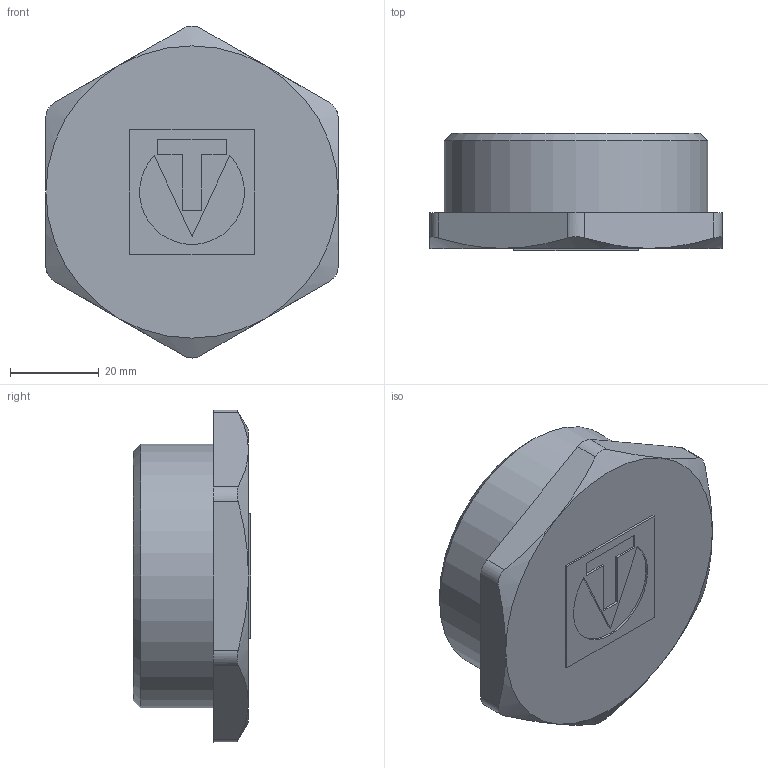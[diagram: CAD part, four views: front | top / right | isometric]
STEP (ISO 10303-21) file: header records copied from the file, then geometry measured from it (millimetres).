
FILE_DESCRIPTION(('STEP AP203'), '1');
FILE_NAME('ÂÐ.753125.008 - VTr.583.N.0009 Ïðîá. ðåçüá', '2024-07-05T13:27:38', ('Boss'), (''), 'C3D Converter', 'C3D Toolkit', '');
FILE_SCHEMA(('CONFIG_CONTROL_DESIGN'));
Length unit declared in the file: millimetre
Products named in the file (1): ВР.753125.008
Bounding box: 66 x 26.5 x 74.97 mm (x, y, z)
Volume: 35774.9 mm3; surface area: 15935 mm2
Topology: 1 solids, 1 shells, 44 faces, 103 edges, 66 vertices
Faces by surface type: plane 27, cylinder 9, cone 8
Full cylindrical faces by diameter (mm): 50 x1, 59.614 x1
Entity records: 1881 total; most frequent: CARTESIAN_POINT 873, ORIENTED_EDGE 198, DIRECTION 191, EDGE_CURVE 99, VERTEX_POINT 66, AXIS2_PLACEMENT_3D 65, LINE 61, VECTOR 61
